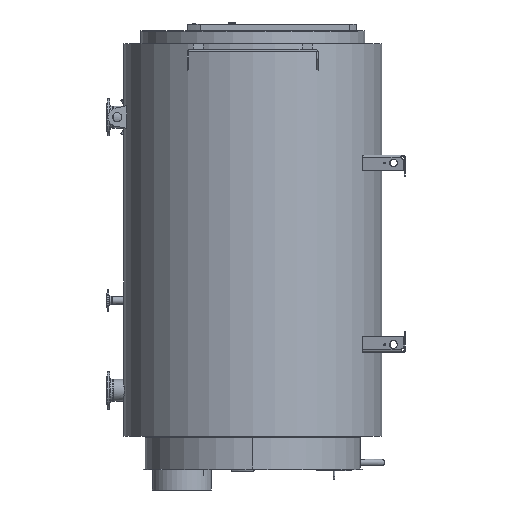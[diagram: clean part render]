
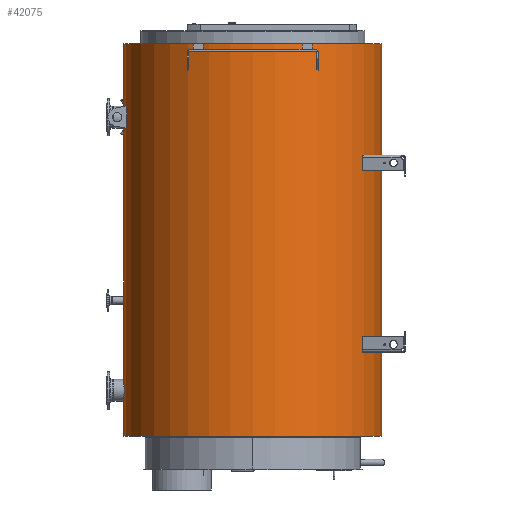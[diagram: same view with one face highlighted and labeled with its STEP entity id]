
A CAD part, left-side view. The second image highlights one B-rep face of the part: STEP entity #42075.
In plain terms, the highlighted cylindrical face has radius 985 mm (diameter 1970 mm), a full revolution.
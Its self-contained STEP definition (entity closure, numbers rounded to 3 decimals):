
#42039=CARTESIAN_POINT('',(985.,-0.,-2786.));
#42040=VERTEX_POINT('',#42039);
#42041=CARTESIAN_POINT('',(0.,0.,-2786.));
#42042=DIRECTION('',(0.,0.,1.));
#42043=DIRECTION('',(1.,0.,-0.));
#42044=AXIS2_PLACEMENT_3D('',#42041,#42042,#42043);
#42045=CIRCLE('',#42044,985.);
#42046=EDGE_CURVE('',#42040,#42040,#42045,.T.);
#42051=CARTESIAN_POINT('',(0.,0.,-2786.002));
#42052=DIRECTION('',(0.,0.,1.));
#42053=DIRECTION('',(1.,0.,-0.));
#42054=AXIS2_PLACEMENT_3D('',#42051,#42052,#42053);
#42055=CYLINDRICAL_SURFACE('',#42054,985.);
#42056=CARTESIAN_POINT('',(985.,-0.,211.));
#42057=VERTEX_POINT('',#42056);
#42058=CARTESIAN_POINT('',(985.,0.,211.));
#42059=DIRECTION('',(-0.,-0.,-1.));
#42060=VECTOR('',#42059,2997.);
#42061=LINE('',#42058,#42060);
#42062=EDGE_CURVE('',#42057,#42040,#42061,.T.);
#42063=ORIENTED_EDGE('',*,*,#42062,.T.);
#42064=ORIENTED_EDGE('',*,*,#42046,.T.);
#42065=ORIENTED_EDGE('',*,*,#42062,.F.);
#42066=CARTESIAN_POINT('',(0.,0.,211.));
#42067=DIRECTION('',(0.,0.,1.));
#42068=DIRECTION('',(1.,0.,-0.));
#42069=AXIS2_PLACEMENT_3D('',#42066,#42067,#42068);
#42070=CIRCLE('',#42069,985.);
#42071=EDGE_CURVE('',#42057,#42057,#42070,.T.);
#42072=ORIENTED_EDGE('',*,*,#42071,.F.);
#42073=EDGE_LOOP('',(#42063,#42064,#42065,#42072));
#42074=FACE_BOUND('',#42073,.T.);
#42075=ADVANCED_FACE('',(#42074),#42055,.T.);
